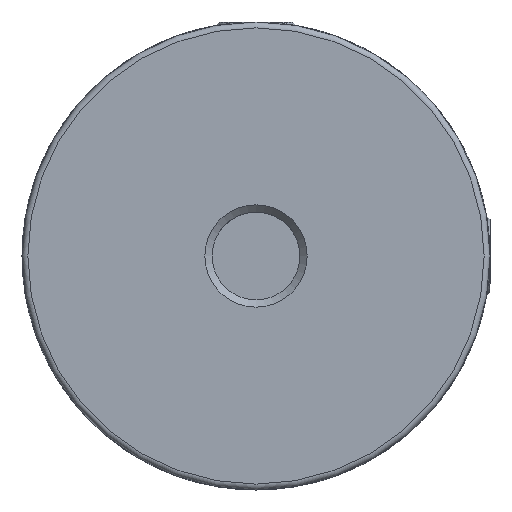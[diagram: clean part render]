
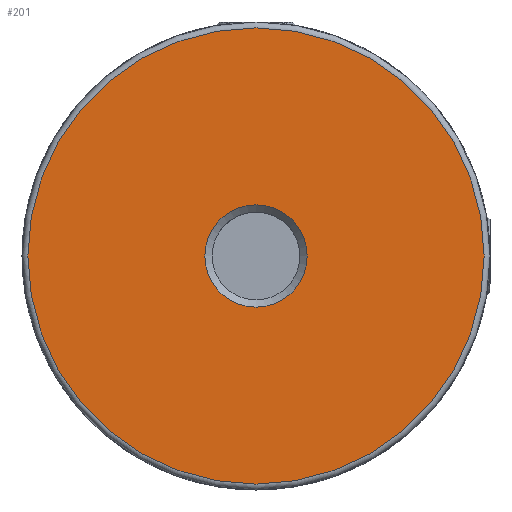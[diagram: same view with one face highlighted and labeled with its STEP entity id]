
A CAD part, left-side view. The second image highlights one B-rep face of the part: STEP entity #201.
In plain terms, the highlighted planar face has unit normal (-1, 0, 0).
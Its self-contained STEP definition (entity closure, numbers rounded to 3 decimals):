
#201 = ADVANCED_FACE( '', ( #470, #471 ), #472, .T. );
#470 = FACE_OUTER_BOUND( '', #925, .T. );
#471 = FACE_BOUND( '', #926, .T. );
#472 = PLANE( '', #927 );
#925 = EDGE_LOOP( '', ( #1575 ) );
#926 = EDGE_LOOP( '', ( #1576 ) );
#927 = AXIS2_PLACEMENT_3D( '', #1577, #1578, #1579 );
#1575 = ORIENTED_EDGE( '', *, *, #2222, .T. );
#1576 = ORIENTED_EDGE( '', *, *, #2223, .T. );
#1577 = CARTESIAN_POINT( '', ( 0., 0., 1.5 ) );
#1578 = DIRECTION( '', ( -1., 0., 0. ) );
#1579 = DIRECTION( '', ( 0., 0., 1. ) );
#2222 = EDGE_CURVE( '', #2631, #2631, #2632, .T. );
#2223 = EDGE_CURVE( '', #2633, #2633, #2634, .T. );
#2631 = VERTEX_POINT( '', #3391 );
#2632 = CIRCLE( '', #3392, 7.8 );
#2633 = VERTEX_POINT( '', #3393 );
#2634 = CIRCLE( '', #3394, 1.75 );
#3391 = CARTESIAN_POINT( '', ( 0., 0., 7.8 ) );
#3392 = AXIS2_PLACEMENT_3D( '', #3928, #3929, #3930 );
#3393 = CARTESIAN_POINT( '', ( 0., 0., 1.75 ) );
#3394 = AXIS2_PLACEMENT_3D( '', #3931, #3932, #3933 );
#3928 = CARTESIAN_POINT( '', ( 0., 0., 0. ) );
#3929 = DIRECTION( '', ( -1., 0., 0. ) );
#3930 = DIRECTION( '', ( 0., 0., 1. ) );
#3931 = CARTESIAN_POINT( '', ( 0., 0., 0. ) );
#3932 = DIRECTION( '', ( 1., 0., 0. ) );
#3933 = DIRECTION( '', ( 0., 0., 1. ) );
